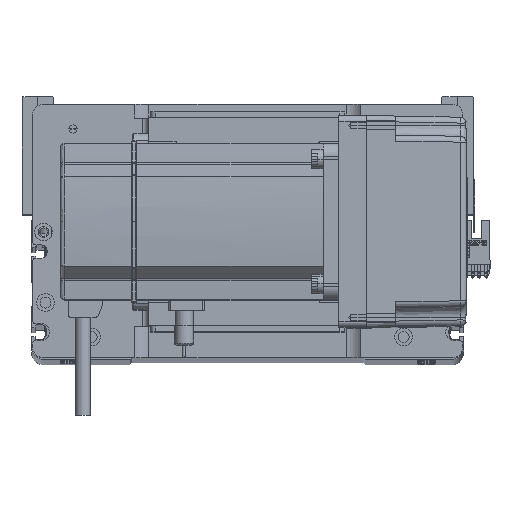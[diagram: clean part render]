
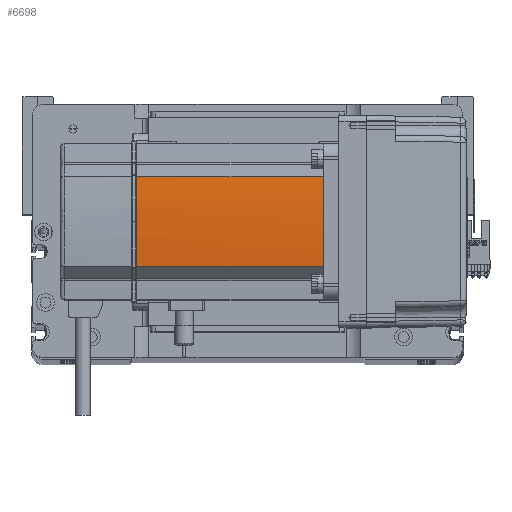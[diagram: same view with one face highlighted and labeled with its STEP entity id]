
A CAD part, top view. The second image highlights one B-rep face of the part: STEP entity #6698.
In plain terms, the highlighted cylindrical face has radius 270 mm (diameter 540 mm), a partial arc.
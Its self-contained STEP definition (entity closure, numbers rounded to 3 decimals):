
#53 = CARTESIAN_POINT ( 'NONE',  ( -39.042, -22.724, 134. ) ) ;
#1662 = VECTOR ( 'NONE', #21799, 1000. ) ;
#4155 = CARTESIAN_POINT ( 'NONE',  ( -39.042, 22.724, 39. ) ) ;
#5363 = CIRCLE ( 'NONE', #19401, 270. ) ;
#6433 = CYLINDRICAL_SURFACE ( 'NONE', #37901, 270. ) ;
#6698 = ADVANCED_FACE ( 'NONE', ( #51630 ), #6433, .T. ) ;
#7569 = EDGE_LOOP ( 'NONE', ( #42027, #28334, #27616, #14342, #19022 ) ) ;
#7989 = AXIS2_PLACEMENT_3D ( 'NONE', #23444, #31598, #44214 ) ;
#9239 = CARTESIAN_POINT ( 'NONE',  ( -39.042, -22.724, 0. ) ) ;
#11630 = EDGE_CURVE ( 'NONE', #16343, #27515, #37392, .T. ) ;
#13882 = AXIS2_PLACEMENT_3D ( 'NONE', #32291, #53142, #27943 ) ;
#14342 = ORIENTED_EDGE ( 'NONE', *, *, #53191, .F. ) ;
#16343 = VERTEX_POINT ( 'NONE', #42787 ) ;
#17220 = LINE ( 'NONE', #22141, #1662 ) ;
#19022 = ORIENTED_EDGE ( 'NONE', *, *, #46444, .T. ) ;
#19139 = DIRECTION ( 'NONE',  ( 1., 0., 0. ) ) ;
#19244 = EDGE_CURVE ( 'NONE', #24136, #16343, #5363, .T. ) ;
#19401 = AXIS2_PLACEMENT_3D ( 'NONE', #23434, #39367, #19139 ) ;
#21799 = DIRECTION ( 'NONE',  ( 0., 0., -1. ) ) ;
#22141 = CARTESIAN_POINT ( 'NONE',  ( -39.042, 22.724, 0. ) ) ;
#23309 = CARTESIAN_POINT ( 'NONE',  ( -39.042, 22.724, 134. ) ) ;
#23434 = CARTESIAN_POINT ( 'NONE',  ( 230., 0., 134. ) ) ;
#23444 = CARTESIAN_POINT ( 'NONE',  ( 230., 0., 39. ) ) ;
#24136 = VERTEX_POINT ( 'NONE', #53 ) ;
#26204 = DIRECTION ( 'NONE',  ( 0., 0., 1. ) ) ;
#27515 = VERTEX_POINT ( 'NONE', #23309 ) ;
#27616 = ORIENTED_EDGE ( 'NONE', *, *, #43892, .T. ) ;
#27943 = DIRECTION ( 'NONE',  ( 1., 0., 0. ) ) ;
#28334 = ORIENTED_EDGE ( 'NONE', *, *, #11630, .T. ) ;
#29093 = CIRCLE ( 'NONE', #7989, 270. ) ;
#29665 = VERTEX_POINT ( 'NONE', #46259 ) ;
#30524 = LINE ( 'NONE', #9239, #31143 ) ;
#31143 = VECTOR ( 'NONE', #26204, 1000. ) ;
#31486 = DIRECTION ( 'NONE',  ( 0., 0., 1. ) ) ;
#31598 = DIRECTION ( 'NONE',  ( 0., 0., -1. ) ) ;
#31838 = DIRECTION ( 'NONE',  ( 1., 0., 0. ) ) ;
#32291 = CARTESIAN_POINT ( 'NONE',  ( 230., 0., 134. ) ) ;
#35630 = CARTESIAN_POINT ( 'NONE',  ( 230., 0., 0. ) ) ;
#37392 = CIRCLE ( 'NONE', #13882, 270. ) ;
#37901 = AXIS2_PLACEMENT_3D ( 'NONE', #35630, #31486, #31838 ) ;
#39367 = DIRECTION ( 'NONE',  ( 0., 0., -1. ) ) ;
#42027 = ORIENTED_EDGE ( 'NONE', *, *, #19244, .T. ) ;
#42787 = CARTESIAN_POINT ( 'NONE',  ( -40., 0., 134. ) ) ;
#43892 = EDGE_CURVE ( 'NONE', #27515, #44410, #17220, .T. ) ;
#44214 = DIRECTION ( 'NONE',  ( 1., 0., 0. ) ) ;
#44410 = VERTEX_POINT ( 'NONE', #4155 ) ;
#46259 = CARTESIAN_POINT ( 'NONE',  ( -39.042, -22.724, 39. ) ) ;
#46444 = EDGE_CURVE ( 'NONE', #29665, #24136, #30524, .T. ) ;
#51630 = FACE_OUTER_BOUND ( 'NONE', #7569, .T. ) ;
#53142 = DIRECTION ( 'NONE',  ( 0., 0., -1. ) ) ;
#53191 = EDGE_CURVE ( 'NONE', #29665, #44410, #29093, .T. ) ;
